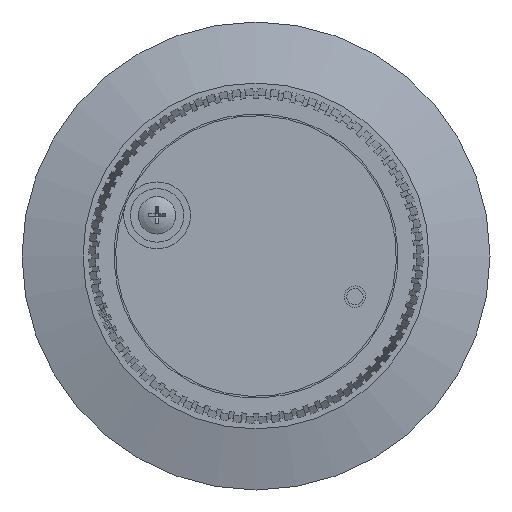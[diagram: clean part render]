
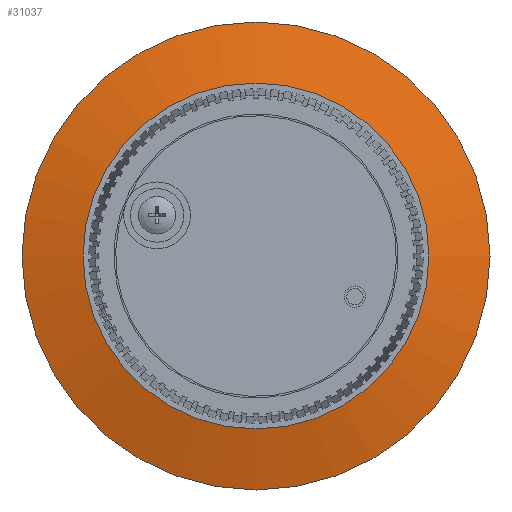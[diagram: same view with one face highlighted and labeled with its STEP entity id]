
A CAD part, left-side view. The second image highlights one B-rep face of the part: STEP entity #31037.
In plain terms, the highlighted conical face has half-angle 75 degrees and reference radius 30.434 mm.
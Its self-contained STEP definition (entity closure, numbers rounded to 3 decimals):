
#8851=FACE_BOUND('',#12577,.T.);
#10462=FACE_OUTER_BOUND('',#12576,.T.);
#12576=EDGE_LOOP('',(#29260));
#12577=EDGE_LOOP('',(#29261));
#13668=CIRCLE('',#34228,35.);
#13670=CIRCLE('',#34231,25.867);
#16566=VERTEX_POINT('',#53893);
#16568=VERTEX_POINT('',#53898);
#20806=EDGE_CURVE('',#16566,#16566,#13668,.T.);
#20808=EDGE_CURVE('',#16568,#16568,#13670,.T.);
#29260=ORIENTED_EDGE('',*,*,#20808,.F.);
#29261=ORIENTED_EDGE('',*,*,#20806,.T.);
#29446=CONICAL_SURFACE('',#34230,30.434,1.309);
#31037=ADVANCED_FACE('',(#10462,#8851),#29446,.T.);
#34228=AXIS2_PLACEMENT_3D('',#53894,#42776,#42777);
#34230=AXIS2_PLACEMENT_3D('',#53897,#42780,#42781);
#34231=AXIS2_PLACEMENT_3D('',#53899,#42782,#42783);
#42776=DIRECTION('center_axis',(1.,0.,0.));
#42777=DIRECTION('ref_axis',(0.,1.,0.));
#42780=DIRECTION('center_axis',(-1.,0.,0.));
#42781=DIRECTION('ref_axis',(0.,1.,0.));
#42782=DIRECTION('center_axis',(1.,0.,0.));
#42783=DIRECTION('ref_axis',(0.,1.,0.));
#53893=CARTESIAN_POINT('',(-2.447,35.,0.));
#53894=CARTESIAN_POINT('Origin',(-2.447,0.,0.));
#53897=CARTESIAN_POINT('Origin',(-1.224,0.,0.));
#53898=CARTESIAN_POINT('',(0.,25.867,0.));
#53899=CARTESIAN_POINT('Origin',(0.,0.,0.));
